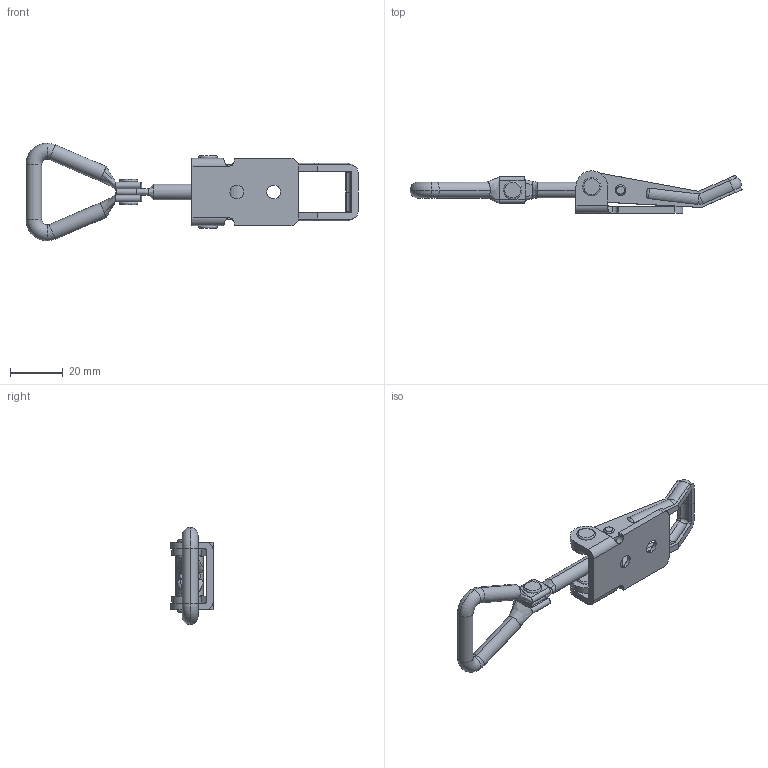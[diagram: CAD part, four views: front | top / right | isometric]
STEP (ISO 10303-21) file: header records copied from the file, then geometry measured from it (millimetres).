
FILE_DESCRIPTION (( 'STEP AP203' ), '1' );
FILE_NAME ('el2130-100-fzb.step', '2013-10-24T12:07:24', ( 'Magnus' ), ( 'Wiberger' ), 'SwSTEP 2.0', 'SolidWorks 2011', '' );
FILE_SCHEMA (( 'CONFIG_CONTROL_DESIGN' ));
Length unit declared in the file: millimetre
Products named in the file (8): el2130-100-fzb_rulle; nit4x7-5; el2030-100-fzb_bygel; el2130-100-fzb; el2130-100-fzb_grepp; el2130-100-fzb_platta; el2030-100-fzb_ganga; nit4x5
Assembly tree (8 placements, depth 2):
  el2130-100-fzb
    el2130-100-fzb_platta
    el2030-100-fzb_ganga
    nit4x7-5
    el2030-100-fzb_bygel
    nit4x5  x2
    el2130-100-fzb_rulle
    el2130-100-fzb_grepp
Bounding box: 126.01 x 16 x 37 mm (x, y, z)
Volume: 11444.4 mm3; surface area: 10866.2 mm2
Topology: 9 solids, 9 shells, 201 faces, 473 edges, 294 vertices
Faces by surface type: cylinder 88, plane 59, torus 32, cone 12, bspline 10
Entity records: 7624 total; most frequent: CARTESIAN_POINT 2251, DIRECTION 993, ORIENTED_EDGE 906, EDGE_CURVE 453, AXIS2_PLACEMENT_3D 396, VERTEX_POINT 282, EDGE_LOOP 219, CIRCLE 204
